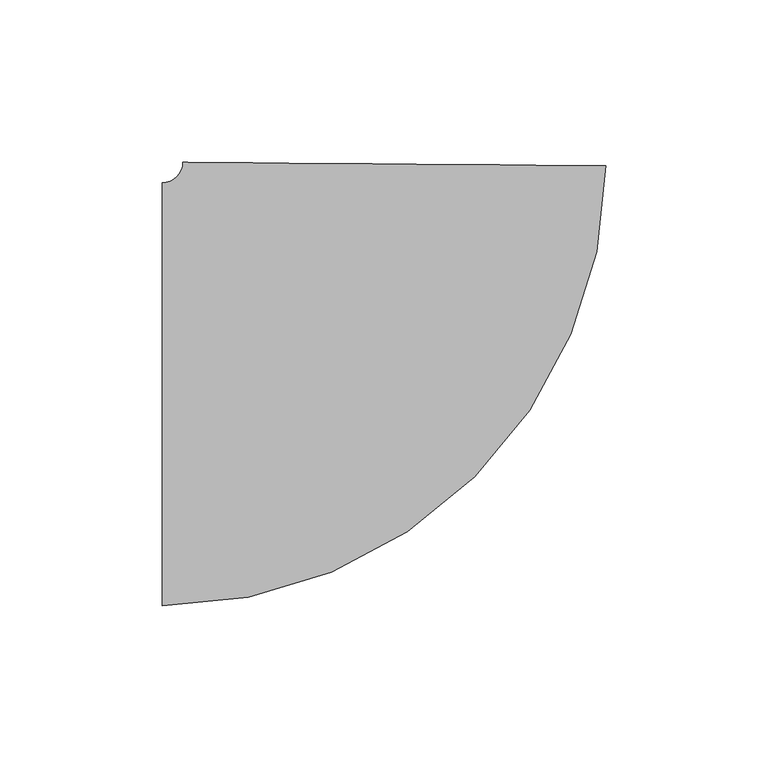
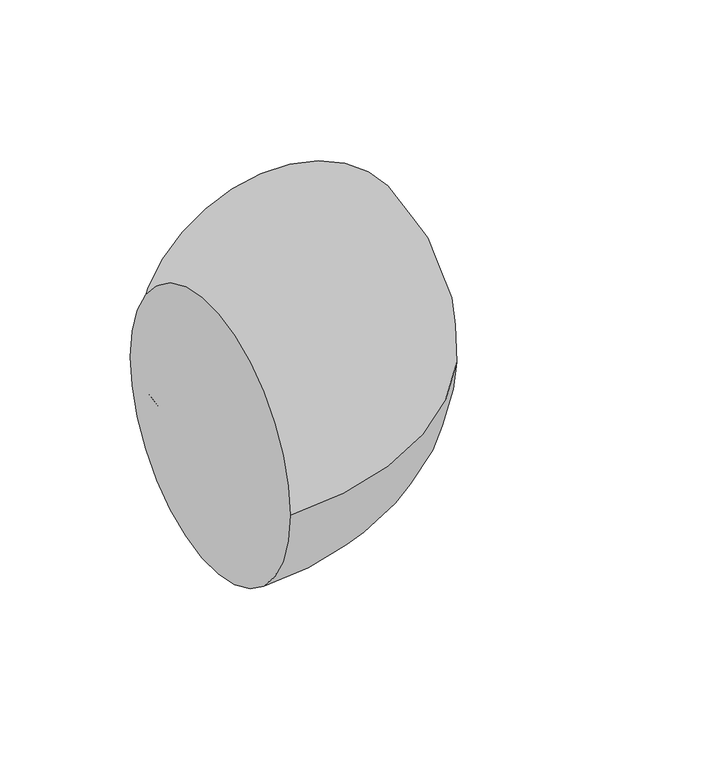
"""IFC4 building model written with IfcOpenShell, lengths in millimetres: pipe fitting geometry, M_Codo - Genérico : Estándar."""

from ifc_helpers import new_model, si_unit, point, frame, origin, place, context, project, spatial, circle_curve, ellipse_curve, trimmed, source, transform, mapped, element, save
from ifc_brep_helpers import plane_surface, revolved_surface, advanced_brep


def pipe_fitting_b4f3c030(model_context):
    return source(origin(), model_context, "Body", "AdvancedBrep", [
        advanced_brep(
        [(-70.8481102, -65.0875, 0.0), (-70.8481102, 65.0875, 0.0), (65.6722047, 70.3064641, 0.0), (-64.4983281, 71.3848937, 0.0)],
        [
            (0, 1, circle_curve(frame((-70.8481102, 0.0, 0.0), z_axis=(-1.0, 0.0, 0.0), x_axis=(0.0, 1.0, 0.0)), 65.0875)),
            (1, 0, circle_curve(frame((-70.8481102, 0.0, 0.0), z_axis=(-1.0, 0.0, 0.0), x_axis=(0.0, 1.0, 0.0)), 65.0875)),
            (2, 3, circle_curve(frame((0.5869383, 70.8456789, 0.0), z_axis=(0.008284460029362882, 0.999965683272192, 0.0), x_axis=(-0.999965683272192, 0.008284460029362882, 0.0)), 65.0875)),
            (3, 2, circle_curve(frame((0.5869383, 70.8456789, 0.0), z_axis=(0.008284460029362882, 0.999965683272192, 0.0), x_axis=(-0.999965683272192, 0.008284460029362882, 0.0)), 65.0875)),
            (3, 1, circle_curve(frame((-70.8481102, 71.4375, 0.0), z_axis=(0.0, 0.0, -1.0), x_axis=(0.0, -1.0, 0.0)), 6.35)),
            (0, 2, circle_curve(frame((-70.8481102, 71.4375, 0.0), z_axis=(0.0, 0.0, 1.0), x_axis=(0.0, -1.0, 0.0)), 136.525)),
        ],
        [
            plane_surface(frame((-70.8481102, 0.0, 0.0), z_axis=(-1.0, 0.0, 0.0), x_axis=(0.0, 0.0, 1.0))),
            plane_surface(frame((0.5869383, 70.8456789, 0.0), z_axis=(0.008284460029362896, 0.999965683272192, 0.0), x_axis=(0.0, 0.0, 1.0))),
            revolved_surface(trimmed(ellipse_curve(frame((-70.8481102, 0.0, 0.0), z_axis=(-1.0, 0.0, 0.0), x_axis=(0.0, 1.0, 0.0)), 65.0875, 65.0875), [point((-70.8481102, -65.0875, 0.0))], [point((-70.8481102, 65.0875, 0.0))], True, "CARTESIAN"), (-70.8481102, 71.4375, 0.0), (0.0, 0.0, 1.0)),
            revolved_surface(trimmed(ellipse_curve(frame((-70.8481102, 0.0, 0.0), z_axis=(-1.0, 0.0, 0.0), x_axis=(0.0, 1.0, 0.0)), 65.0875, 65.0875), [point((-70.8481102, 65.0875, 0.0))], [point((-70.8481102, -65.0875, 0.0))], True, "CARTESIAN"), (-70.8481102, 71.4375, 0.0), (0.0, 0.0, 1.0)),
        ],
        [
            (0, [[1, 2]]),
            (1, [[3, 4]]),
            (2, [[5, -1, 6, -4]]),
            (3, [[-6, -2, -5, -3]]),
        ],
    ),
    ])


if __name__ == "__main__":
    model = new_model("IFC4")
    model_context = context("Model", 3, world=origin())
    ifc_project = project(units=[si_unit("LENGTHUNIT", "METRE", prefix="MILLI")], contexts=[model_context])
    site = spatial("IfcSite", under=ifc_project)
    building = spatial("IfcBuilding", under=site)
    placement = place(None, origin())
    pipe_fitting_shape = pipe_fitting_b4f3c030(model_context)
    element("IfcPipeFitting", 1, ObjectType="M_Codo - Genérico : Estándar", at=placement, inside=building, context=model_context, shape_type="MappedRepresentation", body=[
        mapped(pipe_fitting_shape, transform((0.0, 0.0, 0.0), x_axis=(1.0, 0.0, 0.0), y_axis=(0.0, 1.0, 0.0), z_axis=(0.0, 0.0, 1.0))),
    ])
    save(model, "model.ifc")
